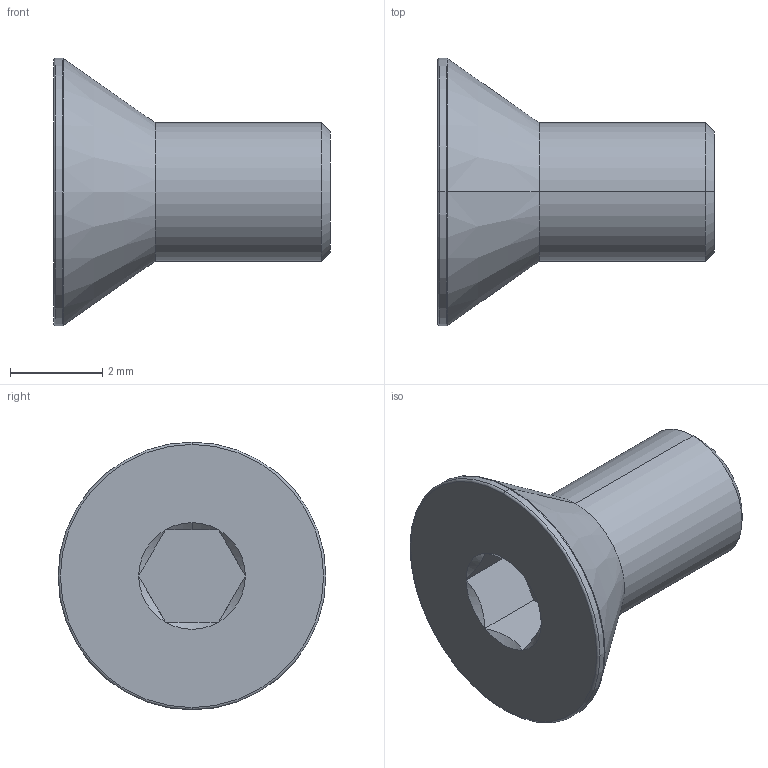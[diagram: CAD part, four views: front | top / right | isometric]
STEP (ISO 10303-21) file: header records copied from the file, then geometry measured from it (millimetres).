
FILE_DESCRIPTION (( 'STEP AP203' ), '1' );
FILE_NAME ('LGDB-TDE-M3x6.STEP', '2026-08-10T11:48:03', ( '' ), ( '' ), 'SwSTEP 2.0', 'SolidWorks 2020', '' );
FILE_SCHEMA (( 'CONFIG_CONTROL_DESIGN' ));
Length unit declared in the file: millimetre
Products named in the file (1): LGDB-TDE-M3x6
Bounding box: 6 x 5.8 x 5.8 mm (x, y, z)
Volume: 58.2 mm3; surface area: 115.1 mm2
Topology: 1 solids, 1 shells, 28 faces, 53 edges, 28 vertices
Faces by surface type: cone 11, plane 9, torus 4, cylinder 4
Entity records: 780 total; most frequent: CARTESIAN_POINT 141, DIRECTION 129, ORIENTED_EDGE 106, AXIS2_PLACEMENT_3D 54, EDGE_CURVE 53, EDGE_LOOP 29, VERTEX_POINT 28, FACE_OUTER_BOUND 28
